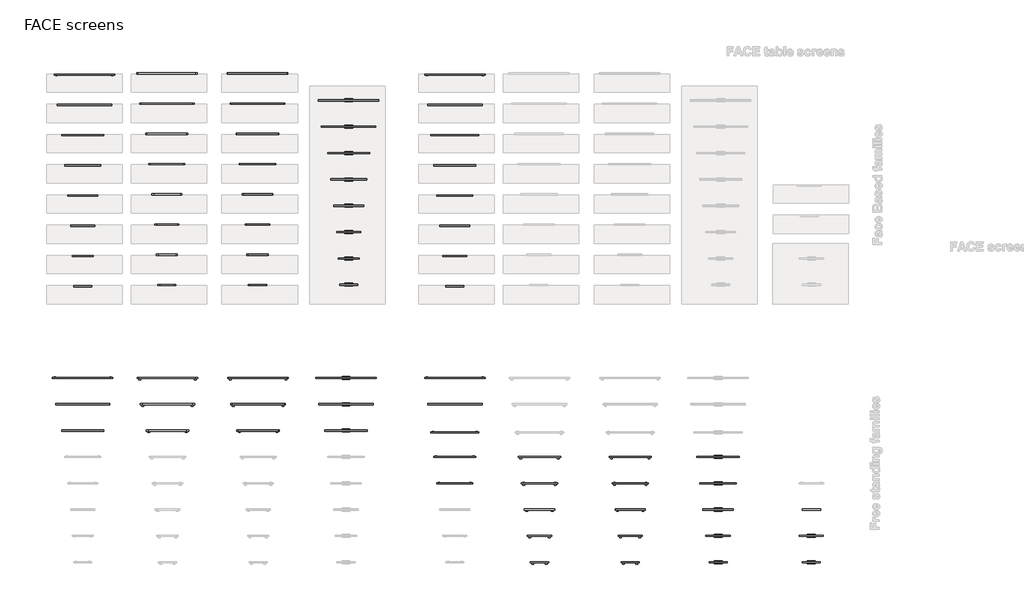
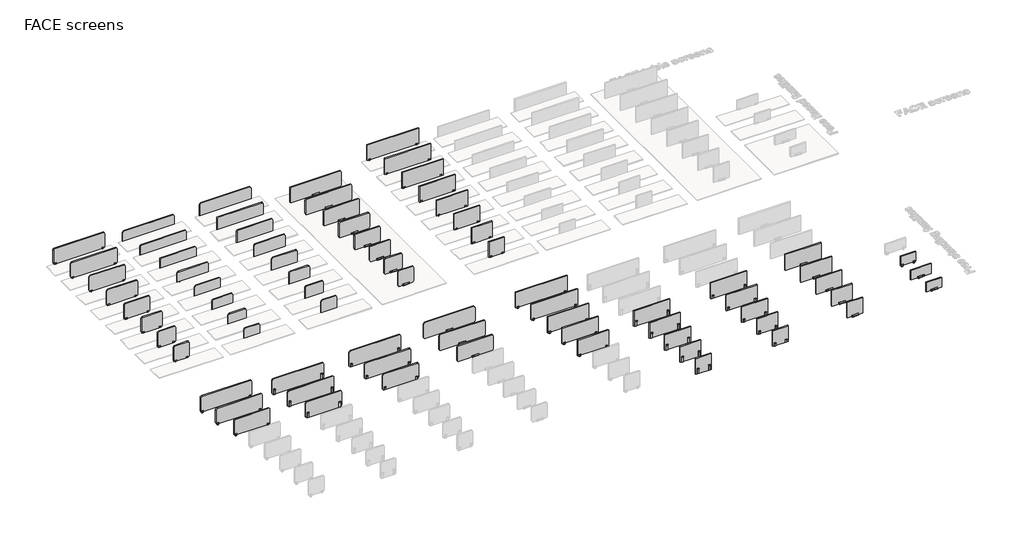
# One storey, part 2 of 5: 75 furniture elements.
"""IFC4 building model written with IfcOpenShell, lengths in millimetres."""

from ifc_helpers import new_model, si_unit, origin, place, context, project, spatial, transform, mapped, element, save
from components import face_table_screen_fb_100_3_3cfc66f3, face_table_screen_fb_100_3_f8ab295d, face_table_screen_fb_120_3_d1688900, face_table_screen_fb_120_3_214e774b, face_table_screen_fb_140_3_574660a4, face_table_screen_fb_140_3_0bd7de2f, face_table_screen_fb_180_3_5f4fbdf1, face_table_screen_fb_180_3_36b0c76c, face_table_screen_fb_200_3_0b80e95a, face_table_screen_fb_200_3_047b05c5, face_table_screen_fb_60_3_2067e8eb, face_table_screen_fb_60_3_41a53d86, face_table_screen_fb_70_3_6cf05b35, face_table_screen_fb_70_3_6f5aee79, face_table_screen_fb_80_3_34b48b4a, face_table_screen_fb_80_3_5fd84f41, face_table_screen_140_3_88fc4263, face_table_screen_140_3_ea5aa285, face_table_screen_180_3_3e0c46ab, face_table_screen_180_3_2303ab26, face_table_screen_200_3_ca9181c1, face_table_screen_200_3_f1fb1aee, face_table_screen_706s06_e9929ecb, face_table_screen_706s06_c9b9419e, face_table_screen_706s08_1f6d369a, face_table_screen_706s08_3afd7701, face_table_screen_706s10_b39df75a, face_table_screen_706s10_65a35566, face_table_screen_706s12_a55fd78f, face_table_screen_706s12_d411597f, face_table_screen_706s14_fd48018f, face_table_screen_706s14_dbaba91a, face_table_screen_above_the_table_top_fb_100_2_4c9ac82c, face_table_screen_above_the_table_top_fb_120_2_7e4b77b2, face_table_screen_above_the_table_top_fb_140_2_b64e6477, face_table_screen_above_the_table_top_fb_180_2_5c300800, face_table_screen_above_the_table_top_fb_200_2_9797aef2, face_table_screen_above_the_table_top_fb_60_2_10286fe6, face_table_screen_above_the_table_top_fb_70_2_6fc3c95c, face_table_screen_above_the_table_top_fb_706s06y_4735288b, face_table_screen_above_the_table_top_fb_706s08y_dd091f89, face_table_screen_above_the_table_top_fb_706s10y_b824632f, face_table_screen_above_the_table_top_fb_706s12y_cea12252, face_table_screen_above_the_table_top_fb_706s14y_2d3ba80d, face_table_screen_above_the_table_top_fb_706s16y_91cf14b0, face_table_screen_above_the_table_top_fb_80_2_485a4c9a, face_table_screen_above_the_table_top_140_2_1f020383, face_table_screen_above_the_table_top_180_2_dd3ff419, face_table_screen_above_the_table_top_200_2_7b3353fa, face_table_screen_above_the_table_top_704s06y_d534fed5, face_table_screen_above_the_table_top_706s12y_19ade67d, face_table_screen_above_the_table_top_706s14y_8a8b96d7, face_table_screen_above_the_table_top_706s16y_538e64ef, face_table_screen_above_the_table_top_706s18y_99b6ad5b, face_table_screen_above_the_table_top_706s20y_973e4218, face_free_standing_table_screen_fb_100_1_674c9dfa, face_free_standing_table_screen_fb_120_1_8b9ce8e5, face_free_standing_table_screen_fb_140_1_1c1aa315, face_free_standing_table_screen_fb_180_1_6931aeb2, face_free_standing_table_screen_fb_200_1_d3b5c3e5, face_free_standing_table_screen_fb_60_1_81a4c0ed, face_free_standing_table_screen_fb_70_1_2_cb3a96f7, face_free_standing_table_screen_fb_80_1_d223b82d, face_free_standing_table_screen_fb_704s06s_1d66ae4d, face_free_standing_table_screen_fb_704s08s_dd9e2d3d, face_free_standing_table_screen_fb_706s06s_526e518a, face_free_standing_table_screen_fb_706s08s_8f1e602d, face_free_standing_table_screen_fb_706s10s_eb0373b6, face_free_standing_table_screen_fb_706s12s_747048ee, face_free_standing_table_screen_fb_706s14s_09d87a36

model = new_model("IFC4")

# Units and contexts
model_context = context("Model", 3, world=origin())
ifc_project = project(units=[si_unit("LENGTHUNIT", "METRE", prefix="MILLI")], contexts=[model_context])

# Site, building, storey
site = spatial("IfcSite", under=ifc_project)
building = spatial("IfcBuilding", under=site)
storey = spatial("IfcBuildingStorey", under=building, Name="FACE screens", Elevation=0.0)

# Furniture
placement = place(None, origin())
face_table_screen_fb_100_3_shape = face_table_screen_fb_100_3_3cfc66f3(model_context)
element("IfcFurniture", 1, ObjectType="Face Table Screen - FB : 100-3", at=placement, inside=storey, context=model_context, shape_type="MappedRepresentation", body=[
    mapped(face_table_screen_fb_100_3_shape, transform((-7165.8177914, 24292.7717693, 720.0), x_axis=(-1.0, 0.0, 0.0), y_axis=(0.0, -1.0, 0.0), z_axis=(0.0, 0.0, 1.0))),
])
face_table_screen_fb_100_3_2_shape = face_table_screen_fb_100_3_f8ab295d(model_context)
element("IfcFurniture", 2, ObjectType="Face Table Screen - FB : 100-3", at=placement, inside=storey, context=model_context, shape_type="MappedRepresentation", body=[
    mapped(face_table_screen_fb_100_3_2_shape, transform((-10165.8177914, 24292.7717693, 720.0), x_axis=(-1.0, 0.0, 0.0), y_axis=(0.0, -1.0, 0.0), z_axis=(0.0, 0.0, 1.0))),
])
face_table_screen_fb_120_3_shape = face_table_screen_fb_120_3_d1688900(model_context)
element("IfcFurniture", 3, ObjectType="Face Table Screen - FB : 120-3", at=placement, inside=storey, context=model_context, shape_type="MappedRepresentation", body=[
    mapped(face_table_screen_fb_120_3_shape, transform((-7165.8177914, 25292.7717693, 720.0), x_axis=(-1.0, 0.0, 0.0), y_axis=(0.0, -1.0, 0.0), z_axis=(0.0, 0.0, 1.0))),
])
face_table_screen_fb_120_3_2_shape = face_table_screen_fb_120_3_214e774b(model_context)
element("IfcFurniture", 4, ObjectType="Face Table Screen - FB : 120-3", at=placement, inside=storey, context=model_context, shape_type="MappedRepresentation", body=[
    mapped(face_table_screen_fb_120_3_2_shape, transform((-10165.8177914, 25292.7717693, 720.0), x_axis=(-1.0, 0.0, 0.0), y_axis=(0.0, -1.0, 0.0), z_axis=(0.0, 0.0, 1.0))),
])
face_table_screen_fb_140_3_shape = face_table_screen_fb_140_3_574660a4(model_context)
element("IfcFurniture", 5, ObjectType="Face Table Screen - FB : 140-3", at=placement, inside=storey, context=model_context, shape_type="MappedRepresentation", body=[
    mapped(face_table_screen_fb_140_3_shape, transform((-7165.8177914, 26292.7717693, 720.0), x_axis=(-1.0, 0.0, 0.0), y_axis=(0.0, -1.0, 0.0), z_axis=(0.0, 0.0, 1.0))),
])
face_table_screen_fb_140_3_2_shape = face_table_screen_fb_140_3_0bd7de2f(model_context)
element("IfcFurniture", 6, ObjectType="Face Table Screen - FB : 140-3", at=placement, inside=storey, context=model_context, shape_type="MappedRepresentation", body=[
    mapped(face_table_screen_fb_140_3_2_shape, transform((-10165.8177914, 26292.7717693, 720.0), x_axis=(-1.0, 0.0, 0.0), y_axis=(0.0, -1.0, 0.0), z_axis=(0.0, 0.0, 1.0))),
])
face_table_screen_fb_180_3_shape = face_table_screen_fb_180_3_5f4fbdf1(model_context)
element("IfcFurniture", 7, ObjectType="Face Table Screen - FB : 180-3", at=placement, inside=storey, context=model_context, shape_type="MappedRepresentation", body=[
    mapped(face_table_screen_fb_180_3_shape, transform((-7165.8177914, 27292.7717693, 720.0), x_axis=(-1.0, 0.0, 0.0), y_axis=(0.0, -1.0, 0.0), z_axis=(0.0, 0.0, 1.0))),
])
face_table_screen_fb_180_3_2_shape = face_table_screen_fb_180_3_36b0c76c(model_context)
element("IfcFurniture", 8, ObjectType="Face Table Screen - FB : 180-3", at=placement, inside=storey, context=model_context, shape_type="MappedRepresentation", body=[
    mapped(face_table_screen_fb_180_3_2_shape, transform((-10165.8177914, 27292.7717693, 720.0), x_axis=(-1.0, 0.0, 0.0), y_axis=(0.0, -1.0, 0.0), z_axis=(0.0, 0.0, 1.0))),
])
face_table_screen_fb_200_3_shape = face_table_screen_fb_200_3_0b80e95a(model_context)
element("IfcFurniture", 9, ObjectType="Face Table Screen - FB : 200-3", at=placement, inside=storey, context=model_context, shape_type="MappedRepresentation", body=[
    mapped(face_table_screen_fb_200_3_shape, transform((-7165.8177914, 28292.7717693, 720.0), x_axis=(-1.0, 0.0, 0.0), y_axis=(0.0, -1.0, 0.0), z_axis=(0.0, 0.0, 1.0))),
])
face_table_screen_fb_200_3_2_shape = face_table_screen_fb_200_3_047b05c5(model_context)
element("IfcFurniture", 10, ObjectType="Face Table Screen - FB : 200-3", at=placement, inside=storey, context=model_context, shape_type="MappedRepresentation", body=[
    mapped(face_table_screen_fb_200_3_2_shape, transform((-10165.8177914, 28292.7717693, 720.0), x_axis=(-1.0, 0.0, 0.0), y_axis=(0.0, -1.0, 0.0), z_axis=(0.0, 0.0, 1.0))),
])
face_table_screen_fb_60_3_shape = face_table_screen_fb_60_3_2067e8eb(model_context)
element("IfcFurniture", 11, ObjectType="Face Table Screen - FB : 60-3", at=placement, inside=storey, context=model_context, shape_type="MappedRepresentation", body=[
    mapped(face_table_screen_fb_60_3_shape, transform((-7165.8177914, 21292.7717693, 720.0), x_axis=(-1.0, 0.0, 0.0), y_axis=(0.0, -1.0, 0.0), z_axis=(0.0, 0.0, 1.0))),
])
face_table_screen_fb_60_3_2_shape = face_table_screen_fb_60_3_41a53d86(model_context)
element("IfcFurniture", 12, ObjectType="Face Table Screen - FB : 60-3", at=placement, inside=storey, context=model_context, shape_type="MappedRepresentation", body=[
    mapped(face_table_screen_fb_60_3_2_shape, transform((-10165.8177914, 21292.7717693, 720.0), x_axis=(-1.0, 0.0, 0.0), y_axis=(0.0, -1.0, 0.0), z_axis=(0.0, 0.0, 1.0))),
])
face_table_screen_fb_70_3_shape = face_table_screen_fb_70_3_6cf05b35(model_context)
element("IfcFurniture", 13, ObjectType="Face Table Screen - FB : 70-3", at=placement, inside=storey, context=model_context, shape_type="MappedRepresentation", body=[
    mapped(face_table_screen_fb_70_3_shape, transform((-7165.8177914, 22292.7717693, 720.0), x_axis=(-1.0, 0.0, 0.0), y_axis=(0.0, -1.0, 0.0), z_axis=(0.0, 0.0, 1.0))),
])
face_table_screen_fb_70_3_2_shape = face_table_screen_fb_70_3_6f5aee79(model_context)
element("IfcFurniture", 14, ObjectType="Face Table Screen - FB : 70-3", at=placement, inside=storey, context=model_context, shape_type="MappedRepresentation", body=[
    mapped(face_table_screen_fb_70_3_2_shape, transform((-10165.8177914, 22292.7717693, 720.0), x_axis=(-1.0, 0.0, 0.0), y_axis=(0.0, -1.0, 0.0), z_axis=(0.0, 0.0, 1.0))),
])
face_table_screen_fb_80_3_shape = face_table_screen_fb_80_3_34b48b4a(model_context)
element("IfcFurniture", 15, ObjectType="Face Table Screen - FB : 80-3", at=placement, inside=storey, context=model_context, shape_type="MappedRepresentation", body=[
    mapped(face_table_screen_fb_80_3_shape, transform((-7165.8177914, 23292.7717693, 720.0), x_axis=(-1.0, 0.0, 0.0), y_axis=(0.0, -1.0, 0.0), z_axis=(0.0, 0.0, 1.0))),
])
face_table_screen_fb_80_3_2_shape = face_table_screen_fb_80_3_5fd84f41(model_context)
element("IfcFurniture", 16, ObjectType="Face Table Screen - FB : 80-3", at=placement, inside=storey, context=model_context, shape_type="MappedRepresentation", body=[
    mapped(face_table_screen_fb_80_3_2_shape, transform((-10165.8177914, 23292.7717693, 720.0), x_axis=(-1.0, 0.0, 0.0), y_axis=(0.0, -1.0, 0.0), z_axis=(0.0, 0.0, 1.0))),
])
face_table_screen_140_3_shape = face_table_screen_140_3_88fc4263(model_context)
element("IfcFurniture", 17, ObjectType="Face Table Screen : 140-3", at=placement, inside=storey, context=model_context, shape_type="MappedRepresentation", body=[
    mapped(face_table_screen_140_3_shape, transform((-7165.8177914, 16499.4356206, 720.0), x_axis=(-1.0, 0.0, 0.0), y_axis=(0.0, -1.0, 0.0), z_axis=(0.0, 0.0, 1.0))),
])
face_table_screen_140_3_2_shape = face_table_screen_140_3_ea5aa285(model_context)
element("IfcFurniture", 18, ObjectType="Face Table Screen : 140-3", at=placement, inside=storey, context=model_context, shape_type="MappedRepresentation", body=[
    mapped(face_table_screen_140_3_2_shape, transform((-10165.8177914, 16499.4356206, 720.0), x_axis=(-1.0, 0.0, 0.0), y_axis=(0.0, -1.0, 0.0), z_axis=(0.0, 0.0, 1.0))),
])
face_table_screen_180_3_shape = face_table_screen_180_3_3e0c46ab(model_context)
element("IfcFurniture", 19, ObjectType="Face Table Screen : 180-3", at=placement, inside=storey, context=model_context, shape_type="MappedRepresentation", body=[
    mapped(face_table_screen_180_3_shape, transform((-7165.8177914, 17370.864192, 720.0), x_axis=(-1.0, 0.0, 0.0), y_axis=(0.0, -1.0, 0.0), z_axis=(0.0, 0.0, 1.0))),
])
face_table_screen_180_3_2_shape = face_table_screen_180_3_2303ab26(model_context)
element("IfcFurniture", 20, ObjectType="Face Table Screen : 180-3", at=placement, inside=storey, context=model_context, shape_type="MappedRepresentation", body=[
    mapped(face_table_screen_180_3_2_shape, transform((-10165.8177914, 17370.864192, 720.0), x_axis=(-1.0, 0.0, 0.0), y_axis=(0.0, -1.0, 0.0), z_axis=(0.0, 0.0, 1.0))),
])
face_table_screen_200_3_shape = face_table_screen_200_3_ca9181c1(model_context)
element("IfcFurniture", 21, ObjectType="Face Table Screen : 200-3", at=placement, inside=storey, context=model_context, shape_type="MappedRepresentation", body=[
    mapped(face_table_screen_200_3_shape, transform((-7165.8177914, 18242.2927634, 720.0), x_axis=(-1.0, 0.0, 0.0), y_axis=(0.0, -1.0, 0.0), z_axis=(0.0, 0.0, 1.0))),
])
face_table_screen_200_3_2_shape = face_table_screen_200_3_f1fb1aee(model_context)
element("IfcFurniture", 22, ObjectType="Face Table Screen : 200-3", at=placement, inside=storey, context=model_context, shape_type="MappedRepresentation", body=[
    mapped(face_table_screen_200_3_2_shape, transform((-10165.8177914, 18242.2927634, 720.0), x_axis=(-1.0, 0.0, 0.0), y_axis=(0.0, -1.0, 0.0), z_axis=(0.0, 0.0, 1.0))),
])
face_table_screen_706s06_shape = face_table_screen_706s06_e9929ecb(model_context)
element("IfcFurniture", 23, ObjectType="Face Table Screen : 706S06", at=placement, inside=storey, context=model_context, shape_type="MappedRepresentation", body=[
    mapped(face_table_screen_706s06_shape, transform((5134.1822086, 12142.2927634, 720.0), x_axis=(-1.0000000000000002, 0.0, 0.0), y_axis=(0.0, -1.0000000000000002, 0.0), z_axis=(0.0, 0.0, 1.0))),
])
face_table_screen_706s06_2_shape = face_table_screen_706s06_c9b9419e(model_context)
element("IfcFurniture", 24, ObjectType="Face Table Screen : 706S06", at=placement, inside=storey, context=model_context, shape_type="MappedRepresentation", body=[
    mapped(face_table_screen_706s06_2_shape, transform((2134.1822086, 12142.2927634, 720.0), x_axis=(-1.0000000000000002, 0.0, 0.0), y_axis=(0.0, -1.0000000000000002, 0.0), z_axis=(0.0, 0.0, 1.0))),
])
face_table_screen_706s08_shape = face_table_screen_706s08_1f6d369a(model_context)
element("IfcFurniture", 25, ObjectType="Face Table Screen : 706S08", at=placement, inside=storey, context=model_context, shape_type="MappedRepresentation", body=[
    mapped(face_table_screen_706s08_shape, transform((5134.1822086, 13013.7213348, 720.0), x_axis=(-1.0, 0.0, 0.0), y_axis=(0.0, -1.0, 0.0), z_axis=(0.0, 0.0, 1.0))),
])
face_table_screen_706s08_2_shape = face_table_screen_706s08_3afd7701(model_context)
element("IfcFurniture", 26, ObjectType="Face Table Screen : 706S08", at=placement, inside=storey, context=model_context, shape_type="MappedRepresentation", body=[
    mapped(face_table_screen_706s08_2_shape, transform((2134.1822086, 13013.7213348, 720.0), x_axis=(-1.0, 0.0, 0.0), y_axis=(0.0, -1.0, 0.0), z_axis=(0.0, 0.0, 1.0))),
])
face_table_screen_706s10_shape = face_table_screen_706s10_b39df75a(model_context)
element("IfcFurniture", 27, ObjectType="Face Table Screen : 706S10", at=placement, inside=storey, context=model_context, shape_type="MappedRepresentation", body=[
    mapped(face_table_screen_706s10_shape, transform((5134.1822086, 13885.1499063, 720.0), x_axis=(-1.0, 0.0, 0.0), y_axis=(0.0, -1.0, 0.0), z_axis=(0.0, 0.0, 1.0))),
])
face_table_screen_706s10_2_shape = face_table_screen_706s10_65a35566(model_context)
element("IfcFurniture", 28, ObjectType="Face Table Screen : 706S10", at=placement, inside=storey, context=model_context, shape_type="MappedRepresentation", body=[
    mapped(face_table_screen_706s10_2_shape, transform((2134.1822086, 13885.1499063, 720.0), x_axis=(-1.0, 0.0, 0.0), y_axis=(0.0, -1.0, 0.0), z_axis=(0.0, 0.0, 1.0))),
])
face_table_screen_706s12_shape = face_table_screen_706s12_a55fd78f(model_context)
element("IfcFurniture", 29, ObjectType="Face Table Screen : 706S12", at=placement, inside=storey, context=model_context, shape_type="MappedRepresentation", body=[
    mapped(face_table_screen_706s12_shape, transform((5134.1822086, 14756.5784777, 720.0), x_axis=(-1.0, 0.0, 0.0), y_axis=(0.0, -1.0, 0.0), z_axis=(0.0, 0.0, 1.0))),
])
face_table_screen_706s12_2_shape = face_table_screen_706s12_d411597f(model_context)
element("IfcFurniture", 30, ObjectType="Face Table Screen : 706S12", at=placement, inside=storey, context=model_context, shape_type="MappedRepresentation", body=[
    mapped(face_table_screen_706s12_2_shape, transform((2134.1822086, 14756.5784777, 720.0), x_axis=(-1.0, 0.0, 0.0), y_axis=(0.0, -1.0, 0.0), z_axis=(0.0, 0.0, 1.0))),
])
face_table_screen_706s14_shape = face_table_screen_706s14_fd48018f(model_context)
element("IfcFurniture", 31, ObjectType="Face Table Screen : 706S14", at=placement, inside=storey, context=model_context, shape_type="MappedRepresentation", body=[
    mapped(face_table_screen_706s14_shape, transform((5134.1822086, 15628.0070491, 720.0), x_axis=(-1.0, 0.0, 0.0), y_axis=(0.0, -1.0, 0.0), z_axis=(0.0, 0.0, 1.0))),
])
face_table_screen_706s14_2_shape = face_table_screen_706s14_dbaba91a(model_context)
element("IfcFurniture", 32, ObjectType="Face Table Screen : 706S14", at=placement, inside=storey, context=model_context, shape_type="MappedRepresentation", body=[
    mapped(face_table_screen_706s14_2_shape, transform((2134.1822086, 15628.0070491, 720.0), x_axis=(-1.0, 0.0, 0.0), y_axis=(0.0, -1.0, 0.0), z_axis=(0.0, 0.0, 1.0))),
])
face_table_screen_above_the_table_top_fb_100_2_shape = face_table_screen_above_the_table_top_fb_100_2_4c9ac82c(model_context)
element("IfcFurniture", 33, ObjectType="Face Table Screen above the Table Top - FB : 100-2", at=placement, inside=storey, context=model_context, shape_type="MappedRepresentation", body=[
    mapped(face_table_screen_above_the_table_top_fb_100_2_shape, transform((-12965.8177914, 24292.7717693, 720.0), x_axis=(-1.0, 0.0, 0.0), y_axis=(0.0, -1.0, 0.0), z_axis=(0.0, 0.0, 1.0))),
])
face_table_screen_above_the_table_top_fb_120_2_shape = face_table_screen_above_the_table_top_fb_120_2_7e4b77b2(model_context)
element("IfcFurniture", 34, ObjectType="Face Table Screen above the Table Top - FB : 120-2", at=placement, inside=storey, context=model_context, shape_type="MappedRepresentation", body=[
    mapped(face_table_screen_above_the_table_top_fb_120_2_shape, transform((-12965.8177914, 25292.7717693, 720.0), x_axis=(-1.0, 0.0, 0.0), y_axis=(0.0, -1.0, 0.0), z_axis=(0.0, 0.0, 1.0))),
])
face_table_screen_above_the_table_top_fb_140_2_shape = face_table_screen_above_the_table_top_fb_140_2_b64e6477(model_context)
element("IfcFurniture", 35, ObjectType="Face Table Screen above the Table Top - FB : 140-2", at=placement, inside=storey, context=model_context, shape_type="MappedRepresentation", body=[
    mapped(face_table_screen_above_the_table_top_fb_140_2_shape, transform((-12965.8177914, 26292.7717693, 720.0), x_axis=(-1.0, 0.0, 0.0), y_axis=(0.0, -1.0, 0.0), z_axis=(0.0, 0.0, 1.0))),
])
face_table_screen_above_the_table_top_fb_180_2_shape = face_table_screen_above_the_table_top_fb_180_2_5c300800(model_context)
element("IfcFurniture", 36, ObjectType="Face Table Screen above the Table Top - FB : 180-2", at=placement, inside=storey, context=model_context, shape_type="MappedRepresentation", body=[
    mapped(face_table_screen_above_the_table_top_fb_180_2_shape, transform((-12912.2195923, 27292.7717693, 720.0), x_axis=(-1.0, 0.0, 0.0), y_axis=(0.0, -1.0, 0.0), z_axis=(0.0, 0.0, 1.0))),
])
face_table_screen_above_the_table_top_fb_200_2_shape = face_table_screen_above_the_table_top_fb_200_2_9797aef2(model_context)
element("IfcFurniture", 37, ObjectType="Face Table Screen above the Table Top - FB : 200-2", at=placement, inside=storey, context=model_context, shape_type="MappedRepresentation", body=[
    mapped(face_table_screen_above_the_table_top_fb_200_2_shape, transform((-12912.2195923, 28292.7717693, 720.0), x_axis=(-1.0, 0.0, 0.0), y_axis=(0.0, -1.0, 0.0), z_axis=(0.0, 0.0, 1.0))),
])
face_table_screen_above_the_table_top_fb_60_2_shape = face_table_screen_above_the_table_top_fb_60_2_10286fe6(model_context)
element("IfcFurniture", 38, ObjectType="Face Table Screen above the Table Top - FB : 60-2", at=placement, inside=storey, context=model_context, shape_type="MappedRepresentation", body=[
    mapped(face_table_screen_above_the_table_top_fb_60_2_shape, transform((-12965.8177914, 21292.7717693, 720.0), x_axis=(-1.0, 0.0, 0.0), y_axis=(0.0, -1.0, 0.0), z_axis=(0.0, 0.0, 1.0))),
])
face_table_screen_above_the_table_top_fb_70_2_shape = face_table_screen_above_the_table_top_fb_70_2_6fc3c95c(model_context)
element("IfcFurniture", 39, ObjectType="Face Table Screen above the Table Top - FB : 70-2", at=placement, inside=storey, context=model_context, shape_type="MappedRepresentation", body=[
    mapped(face_table_screen_above_the_table_top_fb_70_2_shape, transform((-12965.8177914, 22292.7717693, 720.0), x_axis=(-1.0, 0.0, 0.0), y_axis=(0.0, -1.0, 0.0), z_axis=(0.0, 0.0, 1.0))),
])
face_table_screen_above_the_table_top_fb_706s06y_shape = face_table_screen_above_the_table_top_fb_706s06y_4735288b(model_context)
element("IfcFurniture", 40, ObjectType="Face Table Screen above the Table Top - FB : 706S06Y", at=placement, inside=storey, context=model_context, shape_type="MappedRepresentation", body=[
    mapped(face_table_screen_above_the_table_top_fb_706s06y_shape, transform((-665.8177914, 21292.7717693, 720.0), x_axis=(-1.0, 0.0, 0.0), y_axis=(0.0, -1.0, 0.0), z_axis=(0.0, 0.0, 1.0))),
])
face_table_screen_above_the_table_top_fb_706s08y_shape = face_table_screen_above_the_table_top_fb_706s08y_dd091f89(model_context)
element("IfcFurniture", 41, ObjectType="Face Table Screen above the Table Top - FB : 706S08Y", at=placement, inside=storey, context=model_context, shape_type="MappedRepresentation", body=[
    mapped(face_table_screen_above_the_table_top_fb_706s08y_shape, transform((-665.8177914, 22292.7717693, 720.0), x_axis=(-1.0, 0.0, 0.0), y_axis=(0.0, -1.0, 0.0), z_axis=(0.0, 0.0, 1.0))),
])
face_table_screen_above_the_table_top_fb_706s10y_shape = face_table_screen_above_the_table_top_fb_706s10y_b824632f(model_context)
element("IfcFurniture", 42, ObjectType="Face Table Screen above the Table Top - FB : 706S10Y", at=placement, inside=storey, context=model_context, shape_type="MappedRepresentation", body=[
    mapped(face_table_screen_above_the_table_top_fb_706s10y_shape, transform((-665.8177914, 23292.7717693, 720.0), x_axis=(-1.0, 0.0, 0.0), y_axis=(0.0, -1.0, 0.0), z_axis=(0.0, 0.0, 1.0))),
])
face_table_screen_above_the_table_top_fb_706s12y_shape = face_table_screen_above_the_table_top_fb_706s12y_cea12252(model_context)
element("IfcFurniture", 43, ObjectType="Face Table Screen above the Table Top - FB : 706S12Y", at=placement, inside=storey, context=model_context, shape_type="MappedRepresentation", body=[
    mapped(face_table_screen_above_the_table_top_fb_706s12y_shape, transform((-665.8177914, 24292.7717693, 720.0), x_axis=(-1.0, 0.0, 0.0), y_axis=(0.0, -1.0, 0.0), z_axis=(0.0, 0.0, 1.0))),
])
face_table_screen_above_the_table_top_fb_706s14y_shape = face_table_screen_above_the_table_top_fb_706s14y_2d3ba80d(model_context)
element("IfcFurniture", 44, ObjectType="Face Table Screen above the Table Top - FB : 706S14Y", at=placement, inside=storey, context=model_context, shape_type="MappedRepresentation", body=[
    mapped(face_table_screen_above_the_table_top_fb_706s14y_shape, transform((-665.8177914, 25292.7717693, 720.0), x_axis=(-1.0, 0.0, 0.0), y_axis=(0.0, -1.0, 0.0), z_axis=(0.0, 0.0, 1.0))),
])
face_table_screen_above_the_table_top_fb_706s16y_shape = face_table_screen_above_the_table_top_fb_706s16y_91cf14b0(model_context)
element("IfcFurniture", 45, ObjectType="Face Table Screen above the Table Top - FB : 706S16Y", at=placement, inside=storey, context=model_context, shape_type="MappedRepresentation", body=[
    mapped(face_table_screen_above_the_table_top_fb_706s16y_shape, transform((-665.8177914, 26292.7717693, 720.0), x_axis=(-1.0, 0.0, 0.0), y_axis=(0.0, -1.0, 0.0), z_axis=(0.0, 0.0, 1.0))),
])
face_table_screen_above_the_table_top_fb_80_2_shape = face_table_screen_above_the_table_top_fb_80_2_485a4c9a(model_context)
element("IfcFurniture", 46, ObjectType="Face Table Screen above the Table Top - FB : 80-2", at=placement, inside=storey, context=model_context, shape_type="MappedRepresentation", body=[
    mapped(face_table_screen_above_the_table_top_fb_80_2_shape, transform((-12965.8177914, 23292.7717693, 720.0), x_axis=(-1.0, 0.0, 0.0), y_axis=(0.0, -1.0, 0.0), z_axis=(0.0, 0.0, 1.0))),
])
face_table_screen_above_the_table_top_140_2_shape = face_table_screen_above_the_table_top_140_2_1f020383(model_context)
element("IfcFurniture", 47, ObjectType="Face Table Screen above the Table Top : 140-2", at=placement, inside=storey, context=model_context, shape_type="MappedRepresentation", body=[
    mapped(face_table_screen_above_the_table_top_140_2_shape, transform((-12965.8177914, 16499.4356206, 720.0), x_axis=(-1.0, 0.0, 0.0), y_axis=(0.0, -1.0, 0.0), z_axis=(0.0, 0.0, 1.0))),
])
face_table_screen_above_the_table_top_180_2_shape = face_table_screen_above_the_table_top_180_2_dd3ff419(model_context)
element("IfcFurniture", 48, ObjectType="Face Table Screen above the Table Top : 180-2", at=placement, inside=storey, context=model_context, shape_type="MappedRepresentation", body=[
    mapped(face_table_screen_above_the_table_top_180_2_shape, transform((-12965.8177914, 17370.864192, 720.0), x_axis=(-1.0, 0.0, 0.0), y_axis=(0.0, -1.0, 0.0), z_axis=(0.0, 0.0, 1.0))),
])
face_table_screen_above_the_table_top_200_2_shape = face_table_screen_above_the_table_top_200_2_7b3353fa(model_context)
element("IfcFurniture", 49, ObjectType="Face Table Screen above the Table Top : 200-2", at=placement, inside=storey, context=model_context, shape_type="MappedRepresentation", body=[
    mapped(face_table_screen_above_the_table_top_200_2_shape, transform((-12965.8177914, 18242.2927634, 720.0), x_axis=(-1.0, 0.0, 0.0), y_axis=(0.0, -1.0, 0.0), z_axis=(0.0, 0.0, 1.0))),
])
face_table_screen_above_the_table_top_704s06y_shape = face_table_screen_above_the_table_top_704s06y_d534fed5(model_context)
element("IfcFurniture", 50, ObjectType="Face Table Screen above the Table Top : 704S06Y", at=placement, inside=storey, context=model_context, shape_type="MappedRepresentation", body=[
    mapped(face_table_screen_above_the_table_top_704s06y_shape, transform((11126.7863427, 13885.1499063, 720.0), x_axis=(-1.0000000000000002, 0.0, 0.0), y_axis=(0.0, -1.0000000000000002, 0.0), z_axis=(0.0, 0.0, 1.0))),
])
face_table_screen_above_the_table_top_706s12y_shape = face_table_screen_above_the_table_top_706s12y_19ade67d(model_context)
element("IfcFurniture", 51, ObjectType="Face Table Screen above the Table Top : 706S12Y", at=placement, inside=storey, context=model_context, shape_type="MappedRepresentation", body=[
    mapped(face_table_screen_above_the_table_top_706s12y_shape, transform((-665.8177914, 14756.5784777, 720.0), x_axis=(-1.0, 0.0, 0.0), y_axis=(0.0, -1.0, 0.0), z_axis=(0.0, 0.0, 1.0))),
])
face_table_screen_above_the_table_top_706s14y_shape = face_table_screen_above_the_table_top_706s14y_8a8b96d7(model_context)
element("IfcFurniture", 52, ObjectType="Face Table Screen above the Table Top : 706S14Y", at=placement, inside=storey, context=model_context, shape_type="MappedRepresentation", body=[
    mapped(face_table_screen_above_the_table_top_706s14y_shape, transform((-665.8177914, 15628.0070491, 720.0), x_axis=(-1.0, 0.0, 0.0), y_axis=(0.0, -1.0, 0.0), z_axis=(0.0, 0.0, 1.0))),
])
face_table_screen_above_the_table_top_706s16y_shape = face_table_screen_above_the_table_top_706s16y_538e64ef(model_context)
element("IfcFurniture", 53, ObjectType="Face Table Screen above the Table Top : 706S16Y", at=placement, inside=storey, context=model_context, shape_type="MappedRepresentation", body=[
    mapped(face_table_screen_above_the_table_top_706s16y_shape, transform((-665.8177914, 16442.2927634, 720.0), x_axis=(-1.0, 0.0, 0.0), y_axis=(0.0, -1.0, 0.0), z_axis=(0.0, 0.0, 1.0))),
])
face_table_screen_above_the_table_top_706s18y_shape = face_table_screen_above_the_table_top_706s18y_99b6ad5b(model_context)
element("IfcFurniture", 54, ObjectType="Face Table Screen above the Table Top : 706S18Y", at=placement, inside=storey, context=model_context, shape_type="MappedRepresentation", body=[
    mapped(face_table_screen_above_the_table_top_706s18y_shape, transform((-665.8177914, 27272.7717693, 720.0), x_axis=(-1.0, 0.0, 0.0), y_axis=(0.0, -1.0, 0.0), z_axis=(0.0, 0.0, 1.0))),
])
element("IfcFurniture", 55, ObjectType="Face Table Screen above the Table Top : 706S18Y", at=placement, inside=storey, context=model_context, shape_type="MappedRepresentation", body=[
    mapped(face_table_screen_above_the_table_top_706s18y_shape, transform((-665.8177914, 17370.864192, 720.0), x_axis=(-1.0, 0.0, 0.0), y_axis=(0.0, -1.0, 0.0), z_axis=(0.0, 0.0, 1.0))),
])
face_table_screen_above_the_table_top_706s20y_shape = face_table_screen_above_the_table_top_706s20y_973e4218(model_context)
element("IfcFurniture", 56, ObjectType="Face Table Screen above the Table Top : 706S20Y", at=placement, inside=storey, context=model_context, shape_type="MappedRepresentation", body=[
    mapped(face_table_screen_above_the_table_top_706s20y_shape, transform((-665.8177914, 28272.7717693, 720.0), x_axis=(-1.0, 0.0, 0.0), y_axis=(0.0, -1.0, 0.0), z_axis=(0.0, 0.0, 1.0))),
])
element("IfcFurniture", 57, ObjectType="Face Table Screen above the Table Top : 706S20Y", at=placement, inside=storey, context=model_context, shape_type="MappedRepresentation", body=[
    mapped(face_table_screen_above_the_table_top_706s20y_shape, transform((-665.8177914, 18242.2927634, 720.0), x_axis=(-1.0, 0.0, 0.0), y_axis=(0.0, -1.0, 0.0), z_axis=(0.0, 0.0, 1.0))),
])
face_free_standing_table_screen_fb_100_1_shape = face_free_standing_table_screen_fb_100_1_674c9dfa(model_context)
element("IfcFurniture", 58, ObjectType="Face free-standing Table Screen - FB : 100-1", at=placement, inside=storey, context=model_context, shape_type="MappedRepresentation", body=[
    mapped(face_free_standing_table_screen_fb_100_1_shape, transform((-4173.2136573, 23938.5228984, 720.0), x_axis=(-1.0, 0.0, 0.0), y_axis=(0.0, -1.0, 0.0), z_axis=(0.0, 0.0, 1.0))),
])
face_free_standing_table_screen_fb_120_1_shape = face_free_standing_table_screen_fb_120_1_8b9ce8e5(model_context)
element("IfcFurniture", 59, ObjectType="Face free-standing Table Screen - FB : 120-1", at=placement, inside=storey, context=model_context, shape_type="MappedRepresentation", body=[
    mapped(face_free_standing_table_screen_fb_120_1_shape, transform((-4173.2136573, 24809.9514699, 720.0), x_axis=(-1.0, 0.0, 0.0), y_axis=(0.0, -1.0, 0.0), z_axis=(0.0, 0.0, 1.0))),
])
face_free_standing_table_screen_fb_140_1_shape = face_free_standing_table_screen_fb_140_1_1c1aa315(model_context)
element("IfcFurniture", 60, ObjectType="Face free-standing Table Screen - FB : 140-1", at=placement, inside=storey, context=model_context, shape_type="MappedRepresentation", body=[
    mapped(face_free_standing_table_screen_fb_140_1_shape, transform((-4173.2136573, 25681.3800413, 720.0), x_axis=(-1.0, 0.0, 0.0), y_axis=(0.0, -1.0, 0.0), z_axis=(0.0, 0.0, 1.0))),
])
face_free_standing_table_screen_fb_180_1_shape = face_free_standing_table_screen_fb_180_1_6931aeb2(model_context)
element("IfcFurniture", 61, ObjectType="Face free-standing Table Screen - FB : 180-1", at=placement, inside=storey, context=model_context, shape_type="MappedRepresentation", body=[
    mapped(face_free_standing_table_screen_fb_180_1_shape, transform((-4173.2136573, 26552.8086127, 720.0), x_axis=(-1.0, 0.0, 0.0), y_axis=(0.0, -1.0, 0.0), z_axis=(0.0, 0.0, 1.0))),
])
face_free_standing_table_screen_fb_200_1_shape = face_free_standing_table_screen_fb_200_1_d3b5c3e5(model_context)
element("IfcFurniture", 62, ObjectType="Face free-standing Table Screen - FB : 200-1", at=placement, inside=storey, context=model_context, shape_type="MappedRepresentation", body=[
    mapped(face_free_standing_table_screen_fb_200_1_shape, transform((-4173.2136573, 27424.2371842, 720.0), x_axis=(-1.0, 0.0, 0.0), y_axis=(0.0, -1.0, 0.0), z_axis=(0.0, 0.0, 1.0))),
])
face_free_standing_table_screen_fb_60_1_shape = face_free_standing_table_screen_fb_60_1_81a4c0ed(model_context)
element("IfcFurniture", 63, ObjectType="Face free-standing Table Screen - FB : 60-1", at=placement, inside=storey, context=model_context, shape_type="MappedRepresentation", body=[
    mapped(face_free_standing_table_screen_fb_60_1_shape, transform((-4173.2136573, 21324.2371842, 720.0), x_axis=(-1.0, 0.0, 0.0), y_axis=(0.0, -1.0, 0.0), z_axis=(0.0, 0.0, 1.0))),
])
face_free_standing_table_screen_fb_70_1_2_shape = face_free_standing_table_screen_fb_70_1_2_cb3a96f7(model_context)
element("IfcFurniture", 64, ObjectType="Face free-standing Table Screen - FB : 70-1 2", at=placement, inside=storey, context=model_context, shape_type="MappedRepresentation", body=[
    mapped(face_free_standing_table_screen_fb_70_1_2_shape, transform((-4173.2136573, 22195.6657556, 720.0), x_axis=(-1.0, 0.0, 0.0), y_axis=(0.0, -1.0, 0.0), z_axis=(0.0, 0.0, 1.0))),
])
face_free_standing_table_screen_fb_80_1_shape = face_free_standing_table_screen_fb_80_1_d223b82d(model_context)
element("IfcFurniture", 65, ObjectType="Face free-standing Table Screen - FB : 80-1", at=placement, inside=storey, context=model_context, shape_type="MappedRepresentation", body=[
    mapped(face_free_standing_table_screen_fb_80_1_shape, transform((-4173.2136573, 23067.094327, 720.0), x_axis=(-1.0, 0.0, 0.0), y_axis=(0.0, -1.0, 0.0), z_axis=(0.0, 0.0, 1.0))),
])
element("IfcFurniture", 66, ObjectType="Face free-standing Table Screen : 140-1", at=placement, inside=storey, context=model_context, shape_type="MappedRepresentation", body=[
    mapped(face_free_standing_table_screen_fb_140_1_shape, transform((-4260.9202842, 16499.4356206, 720.0), x_axis=(-1.0, 0.0, 0.0), y_axis=(0.0, -1.0, 0.0), z_axis=(0.0, 0.0, 1.0))),
])
element("IfcFurniture", 67, ObjectType="Face free-standing Table Screen : 180-1", at=placement, inside=storey, context=model_context, shape_type="MappedRepresentation", body=[
    mapped(face_free_standing_table_screen_fb_180_1_shape, transform((-4260.9202842, 17370.864192, 720.0), x_axis=(-1.0, 0.0, 0.0), y_axis=(0.0, -1.0, 0.0), z_axis=(0.0, 0.0, 1.0))),
])
element("IfcFurniture", 68, ObjectType="Face free-standing Table Screen : 200-1", at=placement, inside=storey, context=model_context, shape_type="MappedRepresentation", body=[
    mapped(face_free_standing_table_screen_fb_200_1_shape, transform((-4260.9202842, 18242.2927634, 720.0), x_axis=(-1.0, 0.0, 0.0), y_axis=(0.0, -1.0, 0.0), z_axis=(0.0, 0.0, 1.0))),
])
face_free_standing_table_screen_fb_704s06s_shape = face_free_standing_table_screen_fb_704s06s_1d66ae4d(model_context)
element("IfcFurniture", 69, ObjectType="Face free-standing Table Screen : 704S06S", at=placement, inside=storey, context=model_context, shape_type="MappedRepresentation", body=[
    mapped(face_free_standing_table_screen_fb_704s06s_shape, transform((11116.9829221, 12142.2927634, 720.0), x_axis=(-1.0, 0.0, 0.0), y_axis=(0.0, -1.0, 0.0), z_axis=(0.0, 0.0, 1.0))),
])
face_free_standing_table_screen_fb_704s08s_shape = face_free_standing_table_screen_fb_704s08s_dd9e2d3d(model_context)
element("IfcFurniture", 70, ObjectType="Face free-standing Table Screen : 704S08S", at=placement, inside=storey, context=model_context, shape_type="MappedRepresentation", body=[
    mapped(face_free_standing_table_screen_fb_704s08s_shape, transform((11116.9829221, 13013.7213348, 720.0), x_axis=(-1.0, 0.0, 0.0), y_axis=(0.0, -1.0, 0.0), z_axis=(0.0, 0.0, 1.0))),
])
face_free_standing_table_screen_fb_706s06s_shape = face_free_standing_table_screen_fb_706s06s_526e518a(model_context)
element("IfcFurniture", 71, ObjectType="Face free-standing Table Screen : 706S06S", at=placement, inside=storey, context=model_context, shape_type="MappedRepresentation", body=[
    mapped(face_free_standing_table_screen_fb_706s06s_shape, transform((8039.0797158, 12142.2927634, 720.0), x_axis=(-1.0, 0.0, 0.0), y_axis=(0.0, -1.0, 0.0), z_axis=(0.0, 0.0, 1.0))),
])
face_free_standing_table_screen_fb_706s08s_shape = face_free_standing_table_screen_fb_706s08s_8f1e602d(model_context)
element("IfcFurniture", 72, ObjectType="Face free-standing Table Screen : 706S08S", at=placement, inside=storey, context=model_context, shape_type="MappedRepresentation", body=[
    mapped(face_free_standing_table_screen_fb_706s08s_shape, transform((8039.0797158, 13013.7213348, 720.0), x_axis=(-1.0, 0.0, 0.0), y_axis=(0.0, -1.0, 0.0), z_axis=(0.0, 0.0, 1.0))),
])
face_free_standing_table_screen_fb_706s10s_shape = face_free_standing_table_screen_fb_706s10s_eb0373b6(model_context)
element("IfcFurniture", 73, ObjectType="Face free-standing Table Screen : 706S10S", at=placement, inside=storey, context=model_context, shape_type="MappedRepresentation", body=[
    mapped(face_free_standing_table_screen_fb_706s10s_shape, transform((8039.0797158, 13885.1499063, 720.0), x_axis=(-1.0, 0.0, 0.0), y_axis=(0.0, -1.0, 0.0), z_axis=(0.0, 0.0, 1.0))),
])
face_free_standing_table_screen_fb_706s12s_shape = face_free_standing_table_screen_fb_706s12s_747048ee(model_context)
element("IfcFurniture", 74, ObjectType="Face free-standing Table Screen : 706S12S", at=placement, inside=storey, context=model_context, shape_type="MappedRepresentation", body=[
    mapped(face_free_standing_table_screen_fb_706s12s_shape, transform((8039.0797158, 14756.5784777, 720.0), x_axis=(-1.0, 0.0, 0.0), y_axis=(0.0, -1.0, 0.0), z_axis=(0.0, 0.0, 1.0))),
])
face_free_standing_table_screen_fb_706s14s_shape = face_free_standing_table_screen_fb_706s14s_09d87a36(model_context)
element("IfcFurniture", 75, ObjectType="Face free-standing Table Screen : 706S14S", at=placement, inside=storey, context=model_context, shape_type="MappedRepresentation", body=[
    mapped(face_free_standing_table_screen_fb_706s14s_shape, transform((8039.0797158, 15628.0070491, 720.0), x_axis=(-1.0, 0.0, 0.0), y_axis=(0.0, -1.0, 0.0), z_axis=(0.0, 0.0, 1.0))),
])

save(model, "model.ifc")
